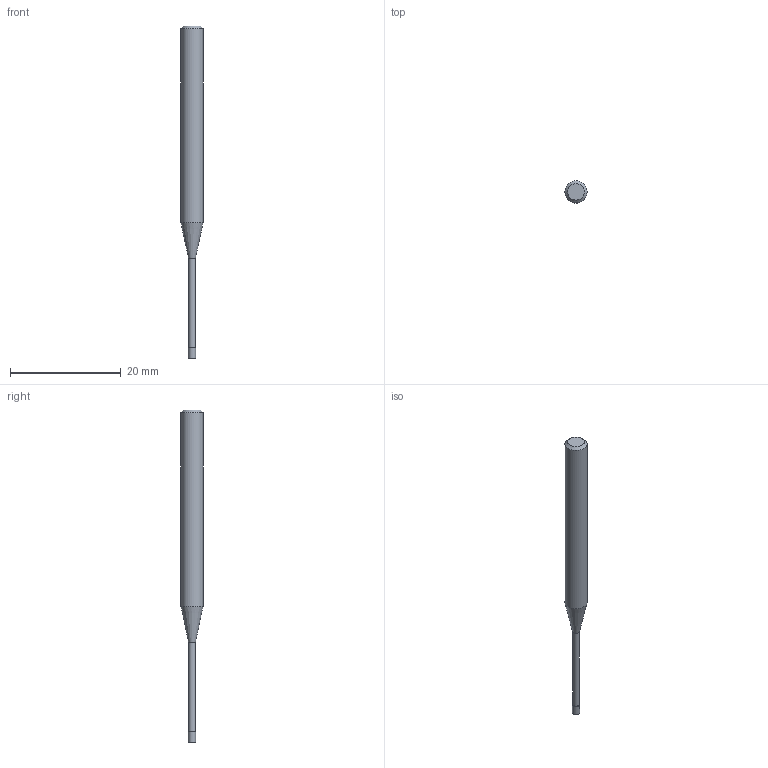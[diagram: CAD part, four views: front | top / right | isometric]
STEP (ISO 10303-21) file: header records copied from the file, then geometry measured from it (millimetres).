
FILE_DESCRIPTION((''),'2;1');
FILE_NAME('C:\Users\nsx150\AppData\Local\Temp\Mastercam 2021\17T8Q8S9EB\TEMP.step','2021-04-21T16:14:35',(''),(''),'STEP Write','Mastercam 2021 ... CNC Software, Inc.','');
FILE_SCHEMA(('AUTOMOTIVE_DESIGN'));
Length unit declared in the file: millimetre
Products named in the file (1): None
Bounding box: 4 x 4 x 60 mm (x, y, z)
Volume: 505.5 mm3; surface area: 584.5 mm2
Topology: 2 solids, 2 shells, 9 faces, 12 edges, 7 vertices
Faces by surface type: plane 4, cylinder 3, cone 2
Full cylindrical faces by diameter (mm): 1.25 x1, 1.3 x1, 4 x1
Entity records: 211 total; most frequent: DIRECTION 36, CARTESIAN_POINT 25, AXIS2_PLACEMENT_3D 18, ORIENTED_EDGE 14, EDGE_LOOP 14, STYLED_ITEM 12, ADVANCED_FACE 9, FACE_BOUND 8
